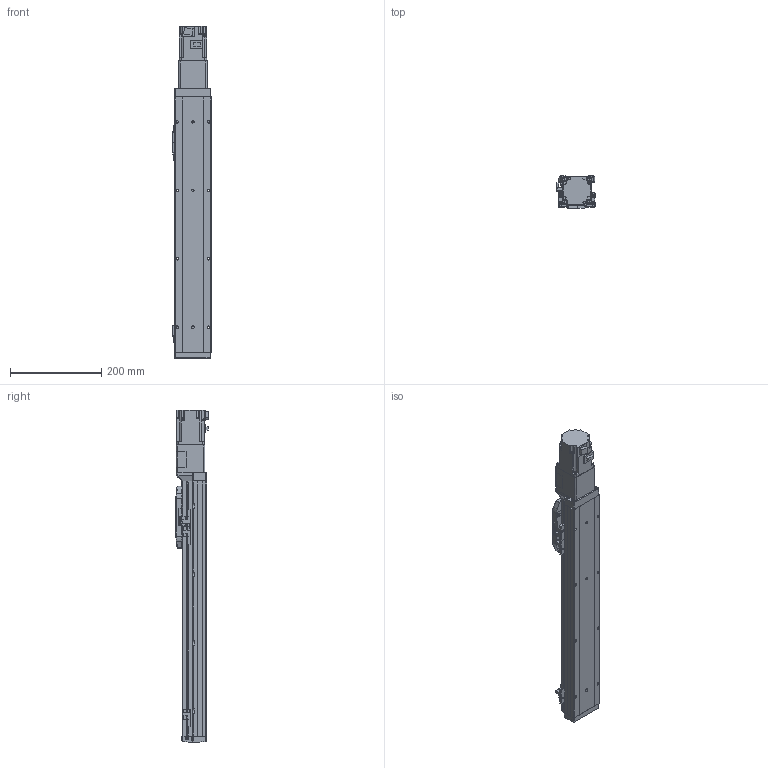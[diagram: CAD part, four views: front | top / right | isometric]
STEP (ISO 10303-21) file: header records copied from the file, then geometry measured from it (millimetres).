
FILE_DESCRIPTION (( 'STEP AP214' ), '1' );
FILE_NAME ('GSH8-400-BC-M20-1.step', '2025-01-07T06:03:36', ( '' ), ( '' ), 'SwSTEP 2.0', 'SolidWorks 2012', '' );
FILE_SCHEMA (( 'AUTOMOTIVE_DESIGN' ));
Length unit declared in the file: millimetre
Products named in the file (4): HG-KR23_200W_Motor; GSH8-400-BC-M20-1; GSH8-BC-011-400-M20; GSH8-GY-004
Assembly tree (3 placements, depth 2):
  GSH8-400-BC-M20-1
    GSH8-BC-011-400-M20
    GSH8-GY-004
    HG-KR23_200W_Motor
Bounding box: 84 x 71.3 x 727.6 mm (x, y, z)
Volume: 1609639.1 mm3; surface area: 406935.9 mm2
Topology: 3 solids, 7 shells, 1105 faces, 2918 edges, 1878 vertices
Faces by surface type: plane 640, cylinder 373, torus 38, cone 26, bspline 24, sphere 4
Entity records: 43400 total; most frequent: CARTESIAN_POINT 9801, DIRECTION 5906, ORIENTED_EDGE 5820, EDGE_CURVE 2910, AXIS2_PLACEMENT_3D 1979, LINE 1948, VECTOR 1948, VERTEX_POINT 1874
